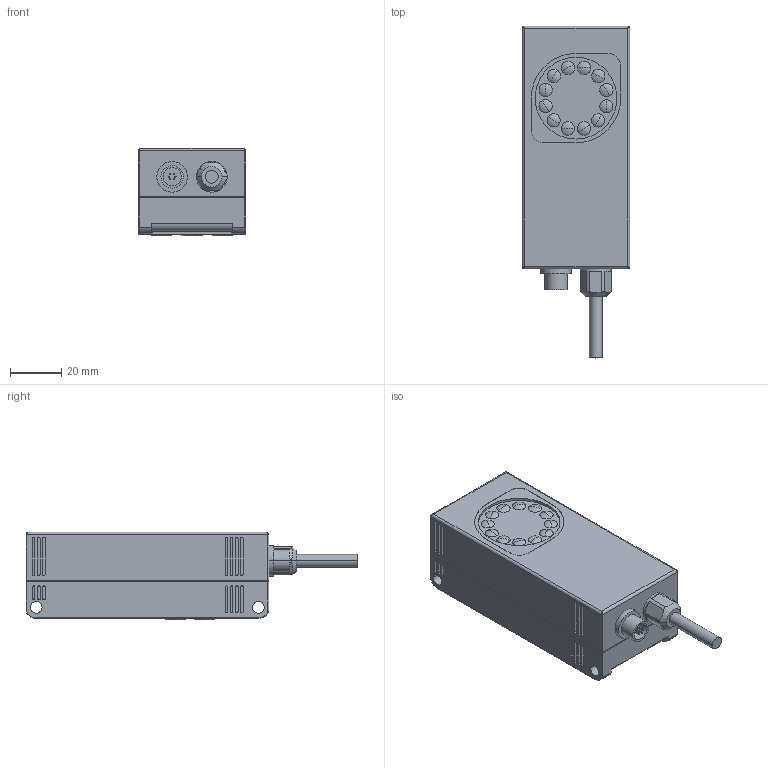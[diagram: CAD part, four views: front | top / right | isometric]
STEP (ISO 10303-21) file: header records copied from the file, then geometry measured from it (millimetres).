
FILE_DESCRIPTION(('SolidDesigner STEP Export'),'2;1');
FILE_NAME('CVS.stp','2007-11-30T 9:00:03',(''),(''),'OneSpaceDesigner STEP processor Version: 9.0 (March 2001)for AP214(CD)(Solid Model)','CoCreate OneSpaceDesigner: 11.60D 09-Mar-2003(C) CoCreate Software GmbH','');
FILE_SCHEMA(('AUTOMOTIVE_DESIGN_CC2 {1 2 10303 214 -1 1 5 1}'));
Length unit declared in the file: millimetre
Products named in the file (2): CVSO`}
Assembly tree (1 placements, depth 2):
  CVSO`}
    CVSO`}
Bounding box: 42 x 129.95 x 34.3 mm (x, y, z)
Volume: 132512.7 mm3; surface area: 21828.4 mm2
Topology: 1 solids, 1 shells, 488 faces, 1262 edges, 823 vertices
Faces by surface type: cylinder 241, plane 203, sphere 24, torus 14, bspline 4, cone 2
Entity records: 15358 total; most frequent: CARTESIAN_POINT 4287, ORIENTED_EDGE 2468, DIRECTION 2029, EDGE_CURVE 1234, VERTEX_POINT 823, AXIS2_PLACEMENT_3D 699, VECTOR 631, LINE 631
